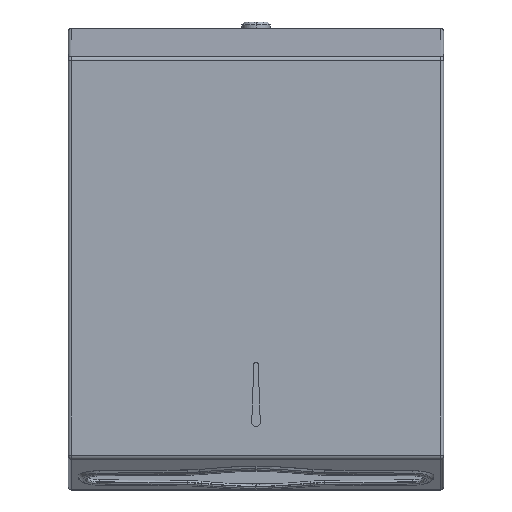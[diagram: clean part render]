
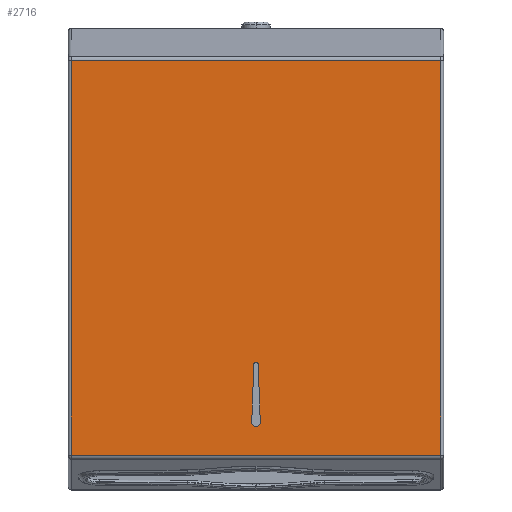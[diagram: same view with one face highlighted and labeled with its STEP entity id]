
A CAD part, top view. The second image highlights one B-rep face of the part: STEP entity #2716.
In plain terms, the highlighted planar face has unit normal (0, 0, 1).
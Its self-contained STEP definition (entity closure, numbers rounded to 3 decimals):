
#122 = CARTESIAN_POINT ( 'NONE',  ( -128., 21.822, 101.5 ) ) ;
#131 = CARTESIAN_POINT ( 'NONE',  ( 2.975, 46.797, 101.5 ) ) ;
#143 = DIRECTION ( 'NONE',  ( 0., -1., 0. ) ) ;
#148 = ORIENTED_EDGE ( 'NONE', *, *, #5587, .T. ) ;
#209 = ORIENTED_EDGE ( 'NONE', *, *, #5365, .T. ) ;
#273 = VERTEX_POINT ( 'NONE', #1801 ) ;
#285 = VERTEX_POINT ( 'NONE', #4159 ) ;
#383 = CARTESIAN_POINT ( 'NONE',  ( 0., 0., 101.5 ) ) ;
#389 = EDGE_CURVE ( 'NONE', #2116, #285, #5027, .T. ) ;
#558 = EDGE_CURVE ( 'NONE', #2427, #5128, #753, .T. ) ;
#615 = ORIENTED_EDGE ( 'NONE', *, *, #4126, .F. ) ;
#753 = LINE ( 'NONE', #1668, #5582 ) ;
#754 = ORIENTED_EDGE ( 'NONE', *, *, #389, .T. ) ;
#949 = PLANE ( 'NONE',  #2601 ) ;
#1026 = DIRECTION ( 'NONE',  ( 1., 0., 0. ) ) ;
#1556 = VECTOR ( 'NONE', #3687, 1000. ) ;
#1651 = DIRECTION ( 'NONE',  ( -1., 0., 0. ) ) ;
#1668 = CARTESIAN_POINT ( 'NONE',  ( -1.5, 86.822, 101.5 ) ) ;
#1801 = CARTESIAN_POINT ( 'NONE',  ( 128., 297.588, 101.5 ) ) ;
#1842 = AXIS2_PLACEMENT_3D ( 'NONE', #2556, #6034, #1026 ) ;
#1880 = EDGE_LOOP ( 'NONE', ( #209, #148, #754, #3140 ) ) ;
#1903 = CARTESIAN_POINT ( 'NONE',  ( 0., 86.822, 101.5 ) ) ;
#2017 = ORIENTED_EDGE ( 'NONE', *, *, #4249, .F. ) ;
#2041 = VECTOR ( 'NONE', #143, 1000. ) ;
#2116 = VERTEX_POINT ( 'NONE', #3246 ) ;
#2260 = CARTESIAN_POINT ( 'NONE',  ( 2.975, 46.797, 101.5 ) ) ;
#2427 = VERTEX_POINT ( 'NONE', #6081 ) ;
#2429 = CARTESIAN_POINT ( 'NONE',  ( -2.975, 46.797, 101.5 ) ) ;
#2554 = ORIENTED_EDGE ( 'NONE', *, *, #4700, .F. ) ;
#2556 = CARTESIAN_POINT ( 'NONE',  ( 0., 46.797, 101.5 ) ) ;
#2601 = AXIS2_PLACEMENT_3D ( 'NONE', #383, #6329, #2875 ) ;
#2716 = ADVANCED_FACE ( 'NONE', ( #3346, #4741 ), #949, .T. ) ;
#2758 = DIRECTION ( 'NONE',  ( -0.037, 0.999, 0. ) ) ;
#2821 = VERTEX_POINT ( 'NONE', #5866 ) ;
#2875 = DIRECTION ( 'NONE',  ( 1., 0., 0. ) ) ;
#2931 = DIRECTION ( 'NONE',  ( 1., 0., 0. ) ) ;
#2935 = VECTOR ( 'NONE', #2758, 1000. ) ;
#2938 = AXIS2_PLACEMENT_3D ( 'NONE', #1903, #4868, #2931 ) ;
#3068 = CARTESIAN_POINT ( 'NONE',  ( 128., 24.034, 101.5 ) ) ;
#3140 = ORIENTED_EDGE ( 'NONE', *, *, #3671, .T. ) ;
#3246 = CARTESIAN_POINT ( 'NONE',  ( -128., 297.588, 101.5 ) ) ;
#3346 = FACE_BOUND ( 'NONE', #4966, .T. ) ;
#3351 = CIRCLE ( 'NONE', #2938, 1.5 ) ;
#3494 = CARTESIAN_POINT ( 'NONE',  ( 1.5, 86.822, 101.5 ) ) ;
#3671 = EDGE_CURVE ( 'NONE', #285, #2821, #4049, .T. ) ;
#3687 = DIRECTION ( 'NONE',  ( 0., 1., 0. ) ) ;
#4049 = LINE ( 'NONE', #3068, #6155 ) ;
#4126 = EDGE_CURVE ( 'NONE', #6156, #2427, #3351, .T. ) ;
#4143 = VERTEX_POINT ( 'NONE', #131 ) ;
#4159 = CARTESIAN_POINT ( 'NONE',  ( -128., 24.034, 101.5 ) ) ;
#4249 = EDGE_CURVE ( 'NONE', #5128, #4143, #6293, .T. ) ;
#4658 = ORIENTED_EDGE ( 'NONE', *, *, #558, .F. ) ;
#4700 = EDGE_CURVE ( 'NONE', #4143, #6156, #5557, .T. ) ;
#4741 = FACE_OUTER_BOUND ( 'NONE', #1880, .T. ) ;
#4868 = DIRECTION ( 'NONE',  ( 0., 0., 1. ) ) ;
#4966 = EDGE_LOOP ( 'NONE', ( #2017, #4658, #615, #2554 ) ) ;
#4992 = LINE ( 'NONE', #5988, #5078 ) ;
#5027 = LINE ( 'NONE', #122, #2041 ) ;
#5078 = VECTOR ( 'NONE', #1651, 1000. ) ;
#5128 = VERTEX_POINT ( 'NONE', #2429 ) ;
#5365 = EDGE_CURVE ( 'NONE', #2821, #273, #6251, .T. ) ;
#5547 = DIRECTION ( 'NONE',  ( -0.037, -0.999, 0. ) ) ;
#5557 = LINE ( 'NONE', #2260, #2935 ) ;
#5567 = DIRECTION ( 'NONE',  ( 1., 0., 0. ) ) ;
#5582 = VECTOR ( 'NONE', #5547, 1000. ) ;
#5587 = EDGE_CURVE ( 'NONE', #273, #2116, #4992, .T. ) ;
#5866 = CARTESIAN_POINT ( 'NONE',  ( 128., 24.034, 101.5 ) ) ;
#5988 = CARTESIAN_POINT ( 'NONE',  ( -128., 297.588, 101.5 ) ) ;
#6034 = DIRECTION ( 'NONE',  ( 0., 0., 1. ) ) ;
#6081 = CARTESIAN_POINT ( 'NONE',  ( -1.5, 86.822, 101.5 ) ) ;
#6155 = VECTOR ( 'NONE', #5567, 1000. ) ;
#6156 = VERTEX_POINT ( 'NONE', #3494 ) ;
#6171 = CARTESIAN_POINT ( 'NONE',  ( 128., 299.747, 101.5 ) ) ;
#6251 = LINE ( 'NONE', #6171, #1556 ) ;
#6293 = CIRCLE ( 'NONE', #1842, 2.975 ) ;
#6329 = DIRECTION ( 'NONE',  ( 0., 0., 1. ) ) ;
